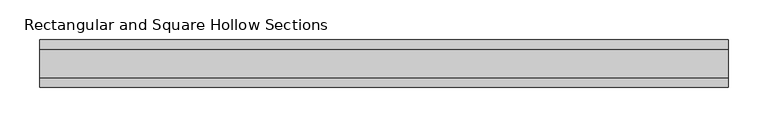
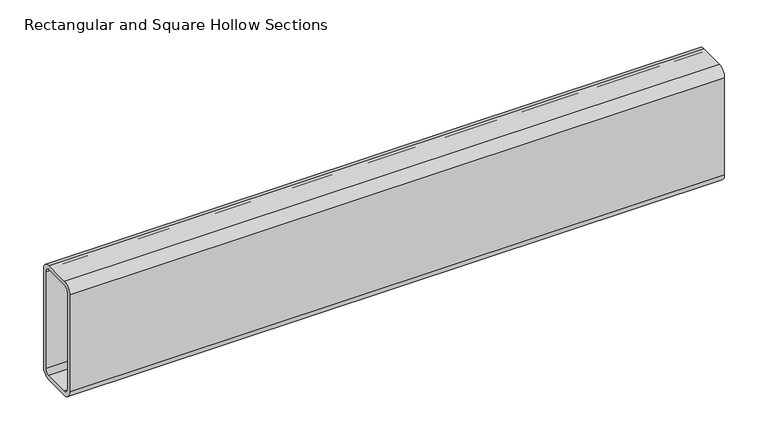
"""IFC4 building model written with IfcOpenShell, lengths in millimetres: beam geometry, Rectangular and Square Hollow Sections : TREC160x60x6."""

from ifc_helpers import new_model, si_unit, point, frame, frame_2d, origin, place, context, project, spatial, polyline, circle_curve, trimmed, segment, composite_curve, outline, extrude, source, transform, mapped, element, save


def rectangular_and_square_hollow_sections_428dbf9e(model_context):
    return source(origin(), model_context, "Body", "SweptSolid", [
        extrude(outline(composite_curve([segment(polyline([(30.0, 68.0), (30.0, -68.0)]), True, "CONTINUOUS"), segment(trimmed(circle_curve(frame_2d((18.0, -68.0)), 12.0), [point((30.0, -68.0))], [point((18.0, -80.0))], False, "CARTESIAN"), True, "CONTINUOUS"), segment(polyline([(18.0, -80.0), (-18.0, -80.0)]), True, "CONTINUOUS"), segment(trimmed(circle_curve(frame_2d((-18.0, -68.0)), 12.0), [point((-18.0, -80.0))], [point((-30.0, -68.0))], False, "CARTESIAN"), True, "CONTINUOUS"), segment(polyline([(-30.0, -68.0), (-30.0, 68.0)]), True, "CONTINUOUS"), segment(trimmed(circle_curve(frame_2d((-18.0, 68.0)), 12.0), [point((-30.0, 68.0))], [point((-18.0, 80.0))], False, "CARTESIAN"), True, "CONTINUOUS"), segment(polyline([(-18.0, 80.0), (18.0, 80.0)]), True, "CONTINUOUS"), segment(trimmed(circle_curve(frame_2d((18.0, 68.0)), 12.0), [point((18.0, 80.0))], [point((30.0, 68.0))], False, "CARTESIAN"), True, "CONTINUOUS")], self_intersect=False), holes=[composite_curve([segment(trimmed(circle_curve(frame_2d((-18.0, 68.0)), 6.0), [point((-18.0, 74.0))], [point((-24.0, 68.0))], True, "CARTESIAN"), True, "CONTINUOUS"), segment(polyline([(-24.0, 68.0), (-24.0, -68.0)]), True, "CONTINUOUS"), segment(trimmed(circle_curve(frame_2d((-18.0, -68.0)), 6.0), [point((-24.0, -68.0))], [point((-18.0, -74.0))], True, "CARTESIAN"), True, "CONTINUOUS"), segment(polyline([(-18.0, -74.0), (18.0, -74.0)]), True, "CONTINUOUS"), segment(trimmed(circle_curve(frame_2d((18.0, -68.0)), 6.0), [point((18.0, -74.0))], [point((24.0, -68.0))], True, "CARTESIAN"), True, "CONTINUOUS"), segment(polyline([(24.0, -68.0), (24.0, 68.0)]), True, "CONTINUOUS"), segment(trimmed(circle_curve(frame_2d((18.0, 68.0)), 6.0), [point((24.0, 68.0))], [point((18.0, 74.0))], True, "CARTESIAN"), True, "CONTINUOUS"), segment(polyline([(18.0, 74.0), (-18.0, 74.0)]), True, "CONTINUOUS")], self_intersect=False)]), frame((-500.5, 0.0, 0.0), z_axis=(1.0, 0.0, 0.0), x_axis=(0.0, 1.0, 0.0)), (0.0, 0.0, 1.0), 869.0),
    ])


if __name__ == "__main__":
    model = new_model("IFC4")
    model_context = context("Model", 3, world=origin())
    ifc_project = project(units=[si_unit("LENGTHUNIT", "METRE", prefix="MILLI")], contexts=[model_context])
    site = spatial("IfcSite", under=ifc_project)
    building = spatial("IfcBuilding", under=site)
    placement = place(None, origin())
    rectangular_and_square_hollow_sections_shape = rectangular_and_square_hollow_sections_428dbf9e(model_context)
    element("IfcBeam", 1, ObjectType="Rectangular and Square Hollow Sections : TREC160x60x6", at=placement, inside=building, context=model_context, shape_type="MappedRepresentation", body=[
        mapped(rectangular_and_square_hollow_sections_shape, transform((0.0, 0.0, 0.0), x_axis=(1.0, 0.0, 0.0), y_axis=(0.0, 1.0, 0.0), z_axis=(0.0, 0.0, 1.0))),
    ])
    save(model, "model.ifc")
